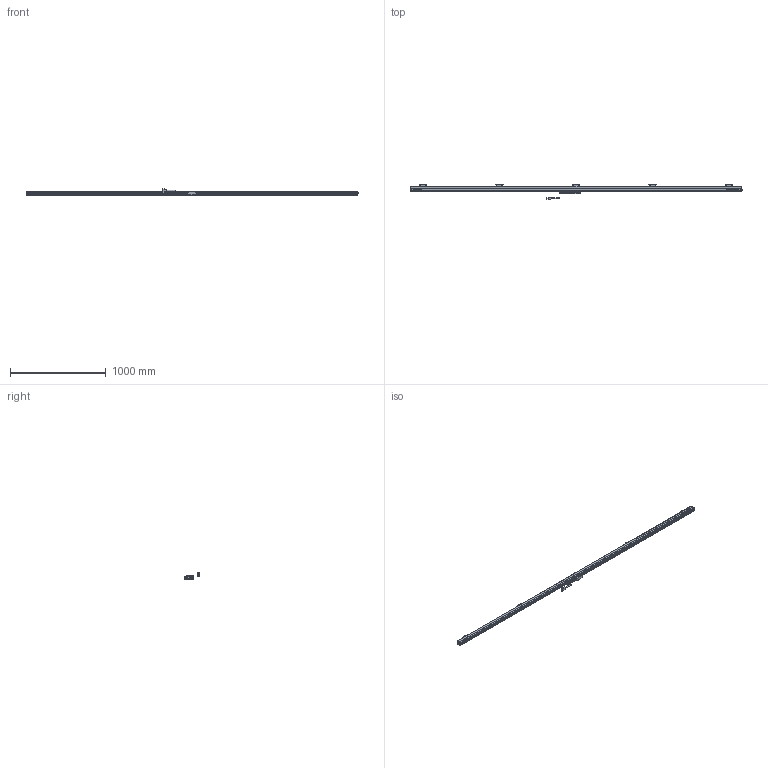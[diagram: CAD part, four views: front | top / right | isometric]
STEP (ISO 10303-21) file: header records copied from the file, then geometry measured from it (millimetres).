
FILE_DESCRIPTION(('Creo Elements/Direct Modeling STEP Export'),'2;1');
FILE_NAME('AT103_AT203-3250.stp','2018-01-05T15:38:35',(''),(''),'Creo Elements/Direct Modeling STEP processor for AP214 (Solid Model)','Creo Elements/Direct Modeling 18.1B 29-Sep-2012 (C) Parametric Technology GmbH','');
FILE_SCHEMA(('AUTOMOTIVE_DESIGN { 1 0 10303 214 1 1 1 1 }'));
Length unit declared in the file: millimetre
Products named in the file (5): DetectorHead; Cable.1; Cable; Scale_3250; AT103_AT203-3250
Assembly tree (4 placements, depth 2):
  AT103_AT203-3250
    Scale_3250
    Cable
    Cable.1
    DetectorHead
Bounding box: 3470 x 150.63 x 68 mm (x, y, z)
Volume: 5925851.2 mm3; surface area: 789752.1 mm2
Topology: 4 solids, 4 shells, 1401 faces, 3542 edges, 2219 vertices
Faces by surface type: plane 812, cylinder 390, cone 106, torus 52, extrusion 16, sphere 16, bspline 5, revolution 4
Entity records: 43320 total; most frequent: CARTESIAN_POINT 8068, ORIENTED_EDGE 7050, DIRECTION 6267, EDGE_CURVE 3525, VECTOR 2221, VERTEX_POINT 2219, LINE 2215, AXIS2_PLACEMENT_3D 2020
